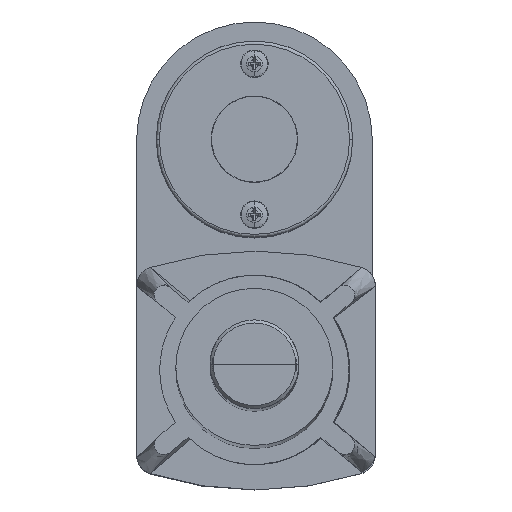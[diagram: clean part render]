
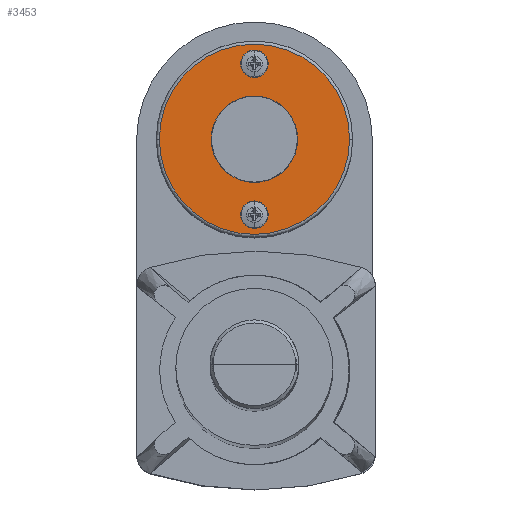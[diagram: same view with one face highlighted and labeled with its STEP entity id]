
A CAD part, top view. The second image highlights one B-rep face of the part: STEP entity #3453.
In plain terms, the highlighted planar face has unit normal (0, 0, 1).
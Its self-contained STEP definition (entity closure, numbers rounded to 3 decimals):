
#36 = EDGE_CURVE ( 'NONE', #9955, #9541, #5052, .T. ) ;
#229 = ORIENTED_EDGE ( 'NONE', *, *, #7186, .F. ) ;
#284 = DIRECTION ( 'NONE',  ( 0., 0., 1. ) ) ;
#411 = DIRECTION ( 'NONE',  ( -1., 0., 0. ) ) ;
#423 = CARTESIAN_POINT ( 'NONE',  ( 38.608, -56.038, 406.098 ) ) ;
#580 = DIRECTION ( 'NONE',  ( 0., 0., 1. ) ) ;
#845 = ORIENTED_EDGE ( 'NONE', *, *, #2618, .F. ) ;
#1040 = CARTESIAN_POINT ( 'NONE',  ( 41.148, -7.238, 406.098 ) ) ;
#1396 = VERTEX_POINT ( 'NONE', #3207 ) ;
#1418 = FACE_BOUND ( 'NONE', #8554, .T. ) ;
#1571 = AXIS2_PLACEMENT_3D ( 'NONE', #4487, #6847, #411 ) ;
#2256 = CARTESIAN_POINT ( 'NONE',  ( 38.608, -7.238, 406.098 ) ) ;
#2378 = CARTESIAN_POINT ( 'NONE',  ( 7.858, -31.638, 406.098 ) ) ;
#2618 = EDGE_CURVE ( 'NONE', #9541, #9955, #3854, .T. ) ;
#2704 = CARTESIAN_POINT ( 'NONE',  ( 38.608, -7.238, 406.098 ) ) ;
#2817 = CIRCLE ( 'NONE', #4256, 30.75 ) ;
#2910 = PLANE ( 'NONE',  #5484 ) ;
#3207 = CARTESIAN_POINT ( 'NONE',  ( 69.358, -31.638, 406.098 ) ) ;
#3349 = AXIS2_PLACEMENT_3D ( 'NONE', #2704, #284, #8335 ) ;
#3401 = ORIENTED_EDGE ( 'NONE', *, *, #3505, .T. ) ;
#3453 = ADVANCED_FACE ( 'NONE', ( #1418, #3980, #10089 ), #2910, .T. ) ;
#3505 = EDGE_CURVE ( 'NONE', #1396, #4344, #2817, .T. ) ;
#3853 = DIRECTION ( 'NONE',  ( -1., 0., 0. ) ) ;
#3854 = CIRCLE ( 'NONE', #1571, 2.54 ) ;
#3865 = VERTEX_POINT ( 'NONE', #5939 ) ;
#3980 = FACE_BOUND ( 'NONE', #10501, .T. ) ;
#4256 = AXIS2_PLACEMENT_3D ( 'NONE', #6966, #7914, #3853 ) ;
#4344 = VERTEX_POINT ( 'NONE', #2378 ) ;
#4487 = CARTESIAN_POINT ( 'NONE',  ( 38.608, -56.038, 406.098 ) ) ;
#4502 = DIRECTION ( 'NONE',  ( -1., 0., 0. ) ) ;
#4576 = DIRECTION ( 'NONE',  ( 0., 0., 1. ) ) ;
#5052 = CIRCLE ( 'NONE', #6484, 2.54 ) ;
#5421 = CARTESIAN_POINT ( 'NONE',  ( 38.608, -31.638, 406.098 ) ) ;
#5426 = DIRECTION ( 'NONE',  ( -1., 0., 0. ) ) ;
#5464 = VERTEX_POINT ( 'NONE', #1040 ) ;
#5484 = AXIS2_PLACEMENT_3D ( 'NONE', #7040, #580, #6933 ) ;
#5501 = DIRECTION ( 'NONE',  ( 0., 0., 1. ) ) ;
#5531 = EDGE_LOOP ( 'NONE', ( #7447, #3401 ) ) ;
#5580 = CIRCLE ( 'NONE', #10286, 2.54 ) ;
#5939 = CARTESIAN_POINT ( 'NONE',  ( 36.068, -7.238, 406.098 ) ) ;
#6484 = AXIS2_PLACEMENT_3D ( 'NONE', #423, #8550, #4502 ) ;
#6689 = CIRCLE ( 'NONE', #9826, 30.75 ) ;
#6847 = DIRECTION ( 'NONE',  ( 0., 0., 1. ) ) ;
#6933 = DIRECTION ( 'NONE',  ( -1., 0., 0. ) ) ;
#6947 = CARTESIAN_POINT ( 'NONE',  ( 36.068, -56.038, 406.098 ) ) ;
#6966 = CARTESIAN_POINT ( 'NONE',  ( 38.608, -31.638, 406.098 ) ) ;
#7040 = CARTESIAN_POINT ( 'NONE',  ( 38.608, -31.638, 406.098 ) ) ;
#7186 = EDGE_CURVE ( 'NONE', #3865, #5464, #5580, .T. ) ;
#7447 = ORIENTED_EDGE ( 'NONE', *, *, #8487, .T. ) ;
#7792 = CARTESIAN_POINT ( 'NONE',  ( 41.148, -56.038, 406.098 ) ) ;
#7914 = DIRECTION ( 'NONE',  ( 0., 0., 1. ) ) ;
#8335 = DIRECTION ( 'NONE',  ( -1., 0., 0. ) ) ;
#8487 = EDGE_CURVE ( 'NONE', #4344, #1396, #6689, .T. ) ;
#8550 = DIRECTION ( 'NONE',  ( 0., 0., 1. ) ) ;
#8554 = EDGE_LOOP ( 'NONE', ( #8933, #845 ) ) ;
#8933 = ORIENTED_EDGE ( 'NONE', *, *, #36, .F. ) ;
#9541 = VERTEX_POINT ( 'NONE', #7792 ) ;
#9621 = CIRCLE ( 'NONE', #3349, 2.54 ) ;
#9644 = ORIENTED_EDGE ( 'NONE', *, *, #10285, .F. ) ;
#9826 = AXIS2_PLACEMENT_3D ( 'NONE', #5421, #4576, #10256 ) ;
#9955 = VERTEX_POINT ( 'NONE', #6947 ) ;
#10089 = FACE_OUTER_BOUND ( 'NONE', #5531, .T. ) ;
#10256 = DIRECTION ( 'NONE',  ( -1., 0., 0. ) ) ;
#10285 = EDGE_CURVE ( 'NONE', #5464, #3865, #9621, .T. ) ;
#10286 = AXIS2_PLACEMENT_3D ( 'NONE', #2256, #5501, #5426 ) ;
#10501 = EDGE_LOOP ( 'NONE', ( #229, #9644 ) ) ;
